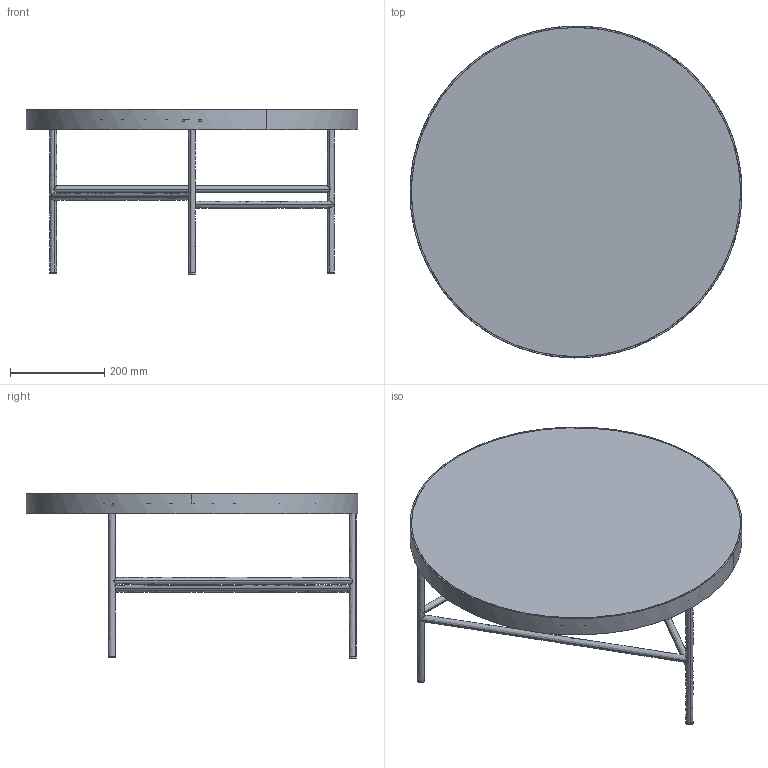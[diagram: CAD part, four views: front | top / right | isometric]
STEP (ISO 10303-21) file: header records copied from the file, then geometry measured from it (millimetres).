
FILE_DESCRIPTION(/* description */ (''),/* implementation_level */ '2;1');
FILE_NAME(/* name */ 'MYBEC3~C',/* time_stamp */ '2018-04-03T14:26:46+02:00',/* author */ (''),/* organization */ (''),/* preprocessor_version */ 'ST-DEVELOPER v15',/* originating_system */ '',/* authorisation */ '');
FILE_SCHEMA (('AUTOMOTIVE_DESIGN'));
Length unit declared in the file: millimetre
Products named in the file (1): Document
Bounding box: 705.7 x 705.98 x 350.08 mm (x, y, z)
Volume: 8669359.3 mm3; surface area: 1278366.3 mm2
Topology: 8 solids, 9 shells, 64 faces, 149 edges, 100 vertices
Faces by surface type: bspline 64
Entity records: 5184 total; most frequent: CARTESIAN_POINT 3354, ORIENTED_EDGE 290, PCURVE 290, DEFINITIONAL_REPRESENTATION 290, B_SPLINE_CURVE_WITH_KNOTS 275, SURFACE_CURVE 147, EDGE_CURVE 147, VERTEX_POINT 98
